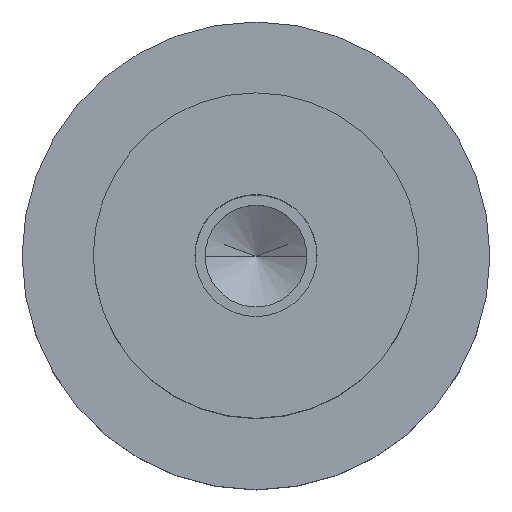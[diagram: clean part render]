
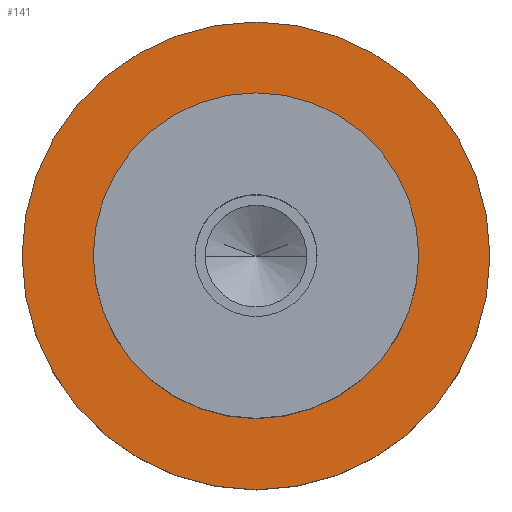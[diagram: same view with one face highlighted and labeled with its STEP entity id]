
A CAD part, top view. The second image highlights one B-rep face of the part: STEP entity #141.
In plain terms, the highlighted planar face has unit normal (0, 0, 1).
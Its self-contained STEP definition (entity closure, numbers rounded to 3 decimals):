
#101=PLANE('',#461);
#109=FACE_BOUND('',#188,.T.);
#110=FACE_BOUND('',#189,.T.);
#141=ADVANCED_FACE('',(#109,#110),#101,.T.);
#188=EDGE_LOOP('',(#279,#280));
#189=EDGE_LOOP('',(#281,#282));
#215=CIRCLE('',#455,8.);
#216=CIRCLE('',#457,8.);
#217=CIRCLE('',#459,11.5);
#218=CIRCLE('',#460,11.5);
#279=ORIENTED_EDGE('',*,*,#378,.F.);
#280=ORIENTED_EDGE('',*,*,#379,.F.);
#281=ORIENTED_EDGE('',*,*,#377,.T.);
#282=ORIENTED_EDGE('',*,*,#375,.T.);
#338=VERTEX_POINT('',#658);
#339=VERTEX_POINT('',#660);
#340=VERTEX_POINT('',#666);
#341=VERTEX_POINT('',#667);
#375=EDGE_CURVE('',#339,#338,#215,.T.);
#377=EDGE_CURVE('',#338,#339,#216,.T.);
#378=EDGE_CURVE('',#340,#341,#217,.T.);
#379=EDGE_CURVE('',#341,#340,#218,.T.);
#455=AXIS2_PLACEMENT_3D('',#659,#542,#543);
#457=AXIS2_PLACEMENT_3D('',#663,#547,#548);
#459=AXIS2_PLACEMENT_3D('',#665,#551,#552);
#460=AXIS2_PLACEMENT_3D('',#668,#553,#554);
#461=AXIS2_PLACEMENT_3D('',#669,#555,#556);
#542=DIRECTION('',(0.,0.,-1.));
#543=DIRECTION('',(0.,1.,0.));
#547=DIRECTION('',(0.,0.,-1.));
#548=DIRECTION('',(0.,-1.,0.));
#551=DIRECTION('',(0.,0.,-1.));
#552=DIRECTION('',(0.,1.,0.));
#553=DIRECTION('',(0.,0.,-1.));
#554=DIRECTION('',(0.,-1.,0.));
#555=DIRECTION('',(0.,0.,1.));
#556=DIRECTION('',(0.,-1.,0.));
#658=CARTESIAN_POINT('',(-8.,0.,0.));
#659=CARTESIAN_POINT('',(0.,0.,0.));
#660=CARTESIAN_POINT('',(8.,0.,0.));
#663=CARTESIAN_POINT('',(0.,0.,0.));
#665=CARTESIAN_POINT('',(0.,0.,0.));
#666=CARTESIAN_POINT('',(11.5,0.,0.));
#667=CARTESIAN_POINT('',(-11.5,0.,0.));
#668=CARTESIAN_POINT('',(0.,0.,0.));
#669=CARTESIAN_POINT('',(0.,0.,0.));
